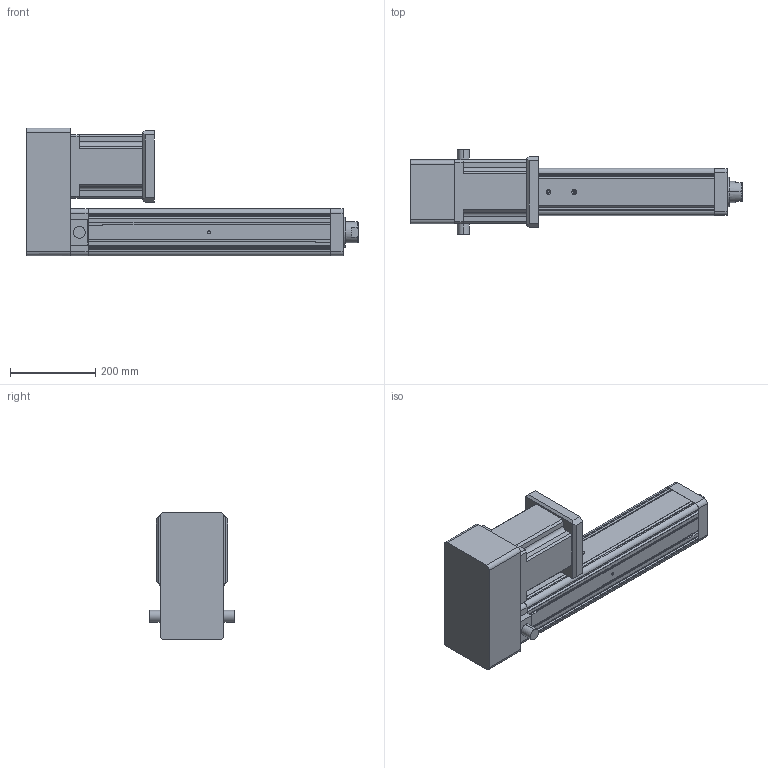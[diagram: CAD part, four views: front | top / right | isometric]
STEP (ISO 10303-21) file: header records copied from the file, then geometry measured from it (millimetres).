
FILE_DESCRIPTION (( 'STEP AP203' ), '1' );
FILE_NAME ('YRJ110-L400-H4K2.STEP', '2020-01-06T01:19:00', ( 'User' ), ( 'China' ), 'SwSTEP 2.0', 'SolidWorks 2016', '' );
FILE_SCHEMA (( 'CONFIG_CONTROL_DESIGN' ));
Length unit declared in the file: millimetre
Products named in the file (7): 142熬厒儂; H5-110-1; H5-110-2; 萇儂碟-110; K2-110; YRJ110-L400-H4K2; 095-100俴最倰第
Assembly tree (6 placements, depth 2):
  YRJ110-L400-H4K2
    095-100俴最倰第
    142熬厒儂
    H5-110-1
    H5-110-2
    萇儂碟-110
    K2-110
Bounding box: 781 x 200 x 300.5 mm (x, y, z)
Volume: 12147228.2 mm3; surface area: 984863.3 mm2
Topology: 6 solids, 6 shells, 311 faces, 850 edges, 549 vertices
Faces by surface type: plane 174, cylinder 110, cone 27
Entity records: 10800 total; most frequent: CARTESIAN_POINT 2043, DIRECTION 1687, ORIENTED_EDGE 1668, EDGE_CURVE 834, VECTOR 577, LINE 577, AXIS2_PLACEMENT_3D 555, VERTEX_POINT 549
